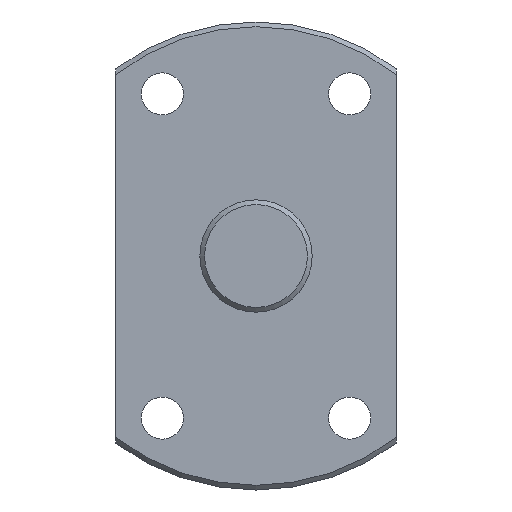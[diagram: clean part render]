
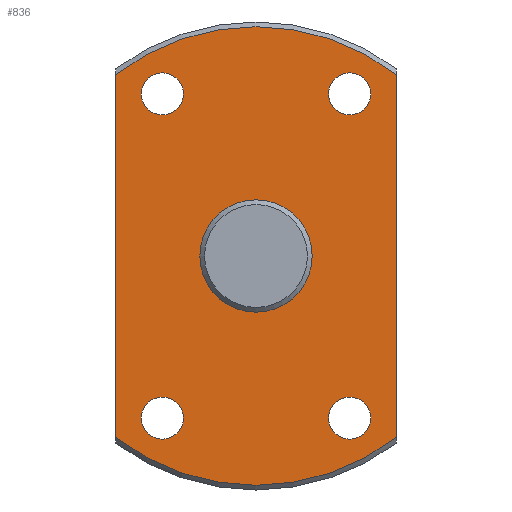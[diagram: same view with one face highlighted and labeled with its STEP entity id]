
A CAD part, left-side view. The second image highlights one B-rep face of the part: STEP entity #836.
In plain terms, the highlighted planar face has unit normal (-1, 0, 0).
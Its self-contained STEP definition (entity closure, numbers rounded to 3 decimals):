
#315=CARTESIAN_POINT('',(171.789,-15.,19.371));
#316=VERTEX_POINT('',#315);
#341=CARTESIAN_POINT('',(171.789,15.,19.371));
#342=VERTEX_POINT('',#341);
#356=CARTESIAN_POINT('',(171.789,0.0,0.0));
#357=DIRECTION('',(1.0,0.0,0.0));
#358=DIRECTION('',(0.0,1.0,0.0));
#359=AXIS2_PLACEMENT_3D('',#356,#357,#358);
#360=CIRCLE('',#359,24.5);
#361=EDGE_CURVE('',#342,#316,#360,.T.);
#404=CARTESIAN_POINT('',(171.789,-15.,-19.371));
#405=VERTEX_POINT('',#404);
#406=CARTESIAN_POINT('',(171.789,-15.,19.371));
#407=DIRECTION('',(0.0,0.0,-1.0));
#408=VECTOR('',#407,38.743);
#409=LINE('',#406,#408);
#410=EDGE_CURVE('',#316,#405,#409,.T.);
#486=CARTESIAN_POINT('',(171.789,15.,-19.371));
#487=VERTEX_POINT('',#486);
#511=CARTESIAN_POINT('',(171.789,0.0,0.0));
#512=DIRECTION('',(1.0,0.0,0.0));
#513=DIRECTION('',(0.0,1.0,0.0));
#514=AXIS2_PLACEMENT_3D('',#511,#512,#513);
#515=CIRCLE('',#514,24.5);
#516=EDGE_CURVE('',#405,#487,#515,.T.);
#597=CARTESIAN_POINT('',(171.789,15.,-19.371));
#598=DIRECTION('',(0.0,0.0,1.0));
#599=VECTOR('',#598,38.743);
#600=LINE('',#597,#599);
#601=EDGE_CURVE('',#487,#342,#600,.T.);
#718=CARTESIAN_POINT('',(171.789,6.,0.));
#719=VERTEX_POINT('',#718);
#720=CARTESIAN_POINT('',(171.789,0.0,0.0));
#721=DIRECTION('',(1.0,0.0,0.0));
#722=DIRECTION('',(0.0,-1.0,0.0));
#723=AXIS2_PLACEMENT_3D('',#720,#721,#722);
#724=CIRCLE('',#723,6.);
#725=EDGE_CURVE('',#719,#719,#724,.T.);
#738=CARTESIAN_POINT('',(171.789,12.25,-17.321));
#739=VERTEX_POINT('',#738);
#740=CARTESIAN_POINT('',(171.789,10.,-17.321));
#741=DIRECTION('',(1.0,0.0,0.0));
#742=DIRECTION('',(0.0,1.0,0.0));
#743=AXIS2_PLACEMENT_3D('',#740,#741,#742);
#744=CIRCLE('',#743,2.25);
#745=EDGE_CURVE('',#739,#739,#744,.T.);
#758=CARTESIAN_POINT('',(171.789,-7.75,17.321));
#759=VERTEX_POINT('',#758);
#760=CARTESIAN_POINT('',(171.789,-10.,17.321));
#761=DIRECTION('',(1.0,0.0,0.0));
#762=DIRECTION('',(0.0,1.0,0.0));
#763=AXIS2_PLACEMENT_3D('',#760,#761,#762);
#764=CIRCLE('',#763,2.25);
#765=EDGE_CURVE('',#759,#759,#764,.T.);
#778=CARTESIAN_POINT('',(171.789,12.25,17.321));
#779=VERTEX_POINT('',#778);
#780=CARTESIAN_POINT('',(171.789,10.,17.321));
#781=DIRECTION('',(1.0,0.0,0.0));
#782=DIRECTION('',(0.0,1.0,0.0));
#783=AXIS2_PLACEMENT_3D('',#780,#781,#782);
#784=CIRCLE('',#783,2.25);
#785=EDGE_CURVE('',#779,#779,#784,.T.);
#798=CARTESIAN_POINT('',(171.789,-7.75,-17.321));
#799=VERTEX_POINT('',#798);
#800=CARTESIAN_POINT('',(171.789,-10.,-17.321));
#801=DIRECTION('',(1.0,0.0,0.0));
#802=DIRECTION('',(0.0,1.0,0.0));
#803=AXIS2_PLACEMENT_3D('',#800,#801,#802);
#804=CIRCLE('',#803,2.25);
#805=EDGE_CURVE('',#799,#799,#804,.T.);
#810=CARTESIAN_POINT('',(171.789,0.0,0.0));
#811=DIRECTION('',(-1.0,0.0,0.0));
#812=DIRECTION('',(0.0,0.0,1.0));
#813=AXIS2_PLACEMENT_3D('',#810,#811,#812);
#814=PLANE('',#813);
#815=ORIENTED_EDGE('',*,*,#361,.F.);
#816=ORIENTED_EDGE('',*,*,#601,.F.);
#817=ORIENTED_EDGE('',*,*,#516,.F.);
#818=ORIENTED_EDGE('',*,*,#410,.F.);
#819=EDGE_LOOP('',(#815,#816,#817,#818));
#820=FACE_OUTER_BOUND('',#819,.T.);
#821=ORIENTED_EDGE('',*,*,#725,.T.);
#822=EDGE_LOOP('',(#821));
#823=FACE_BOUND('',#822,.T.);
#824=ORIENTED_EDGE('',*,*,#745,.T.);
#825=EDGE_LOOP('',(#824));
#826=FACE_BOUND('',#825,.T.);
#827=ORIENTED_EDGE('',*,*,#765,.T.);
#828=EDGE_LOOP('',(#827));
#829=FACE_BOUND('',#828,.T.);
#830=ORIENTED_EDGE('',*,*,#785,.T.);
#831=EDGE_LOOP('',(#830));
#832=FACE_BOUND('',#831,.T.);
#833=ORIENTED_EDGE('',*,*,#805,.T.);
#834=EDGE_LOOP('',(#833));
#835=FACE_BOUND('',#834,.T.);
#836=ADVANCED_FACE('',(#820,#823,#826,#829,#832,#835),#814,.T.);
